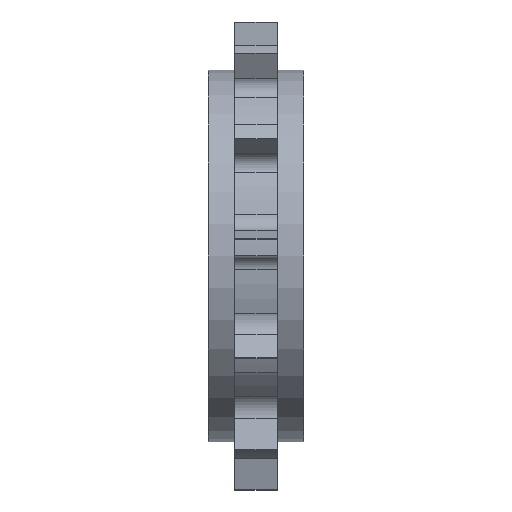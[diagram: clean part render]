
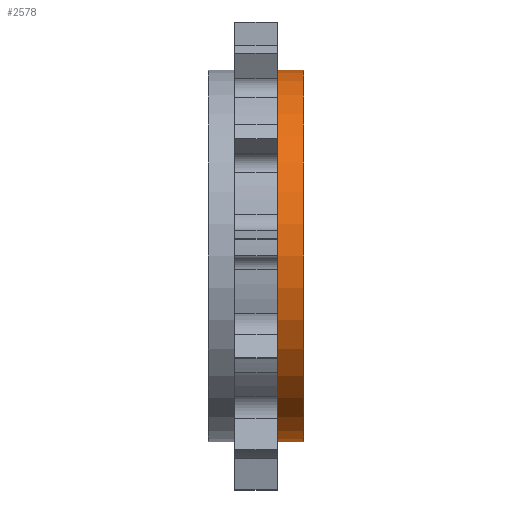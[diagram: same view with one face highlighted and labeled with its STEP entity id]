
A CAD part, left-side view. The second image highlights one B-rep face of the part: STEP entity #2578.
In plain terms, the highlighted cylindrical face has radius 39 mm (diameter 78 mm), a partial arc.
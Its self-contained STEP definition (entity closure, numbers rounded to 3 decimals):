
#312 = CARTESIAN_POINT ( 'NONE',  ( 0., -10., 39. ) ) ;
#697 = DIRECTION ( 'NONE',  ( 0., -1., 0. ) ) ;
#713 = CARTESIAN_POINT ( 'NONE',  ( 0., -10., -39. ) ) ;
#723 = DIRECTION ( 'NONE',  ( 0., -1., 0. ) ) ;
#768 = CARTESIAN_POINT ( 'NONE',  ( 0., -4.5, 39. ) ) ;
#797 = EDGE_LOOP ( 'NONE', ( #3453, #1637, #1497, #2355 ) ) ;
#966 = EDGE_CURVE ( 'NONE', #3993, #3784, #2762, .T. ) ;
#1057 = CARTESIAN_POINT ( 'NONE',  ( 0., 10., 39. ) ) ;
#1243 = CARTESIAN_POINT ( 'NONE',  ( 0., -4.5, 0. ) ) ;
#1299 = CARTESIAN_POINT ( 'NONE',  ( 0., 10., -39. ) ) ;
#1348 = LINE ( 'NONE', #1299, #3528 ) ;
#1350 = CARTESIAN_POINT ( 'NONE',  ( 0., -10., 0. ) ) ;
#1497 = ORIENTED_EDGE ( 'NONE', *, *, #3163, .T. ) ;
#1637 = ORIENTED_EDGE ( 'NONE', *, *, #966, .T. ) ;
#2020 = VECTOR ( 'NONE', #697, 1000. ) ;
#2099 = AXIS2_PLACEMENT_3D ( 'NONE', #1243, #3565, #4641 ) ;
#2128 = DIRECTION ( 'NONE',  ( 0., -1., 0. ) ) ;
#2212 = CARTESIAN_POINT ( 'NONE',  ( 0., 10., 0. ) ) ;
#2355 = ORIENTED_EDGE ( 'NONE', *, *, #4324, .T. ) ;
#2578 = ADVANCED_FACE ( 'NONE', ( #3047 ), #2950, .T. ) ;
#2762 = CIRCLE ( 'NONE', #2099, 39. ) ;
#2831 = EDGE_CURVE ( 'NONE', #3993, #3714, #4240, .T. ) ;
#2867 = CIRCLE ( 'NONE', #3516, 39. ) ;
#2950 = CYLINDRICAL_SURFACE ( 'NONE', #3728, 39. ) ;
#3047 = FACE_OUTER_BOUND ( 'NONE', #797, .T. ) ;
#3163 = EDGE_CURVE ( 'NONE', #3784, #3301, #1348, .T. ) ;
#3301 = VERTEX_POINT ( 'NONE', #713 ) ;
#3359 = DIRECTION ( 'NONE',  ( 0., 0., -1. ) ) ;
#3453 = ORIENTED_EDGE ( 'NONE', *, *, #2831, .F. ) ;
#3516 = AXIS2_PLACEMENT_3D ( 'NONE', #1350, #4392, #4826 ) ;
#3528 = VECTOR ( 'NONE', #2128, 1000. ) ;
#3565 = DIRECTION ( 'NONE',  ( 0., -1., 0. ) ) ;
#3714 = VERTEX_POINT ( 'NONE', #312 ) ;
#3728 = AXIS2_PLACEMENT_3D ( 'NONE', #2212, #723, #3359 ) ;
#3784 = VERTEX_POINT ( 'NONE', #4301 ) ;
#3993 = VERTEX_POINT ( 'NONE', #768 ) ;
#4240 = LINE ( 'NONE', #1057, #2020 ) ;
#4301 = CARTESIAN_POINT ( 'NONE',  ( 0., -4.5, -39. ) ) ;
#4324 = EDGE_CURVE ( 'NONE', #3301, #3714, #2867, .T. ) ;
#4392 = DIRECTION ( 'NONE',  ( 0., 1., 0. ) ) ;
#4641 = DIRECTION ( 'NONE',  ( 0., 0., 1. ) ) ;
#4826 = DIRECTION ( 'NONE',  ( 0., 0., 1. ) ) ;
